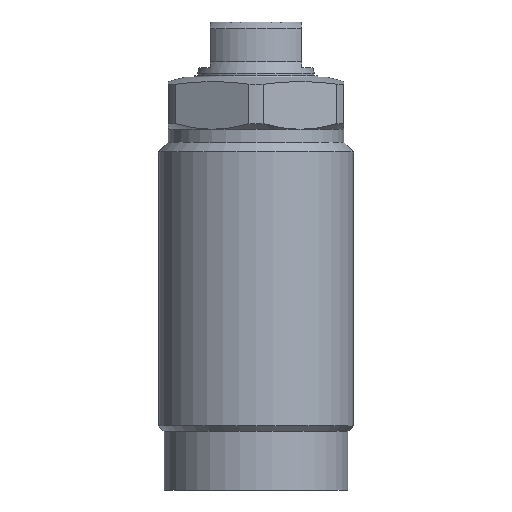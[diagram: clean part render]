
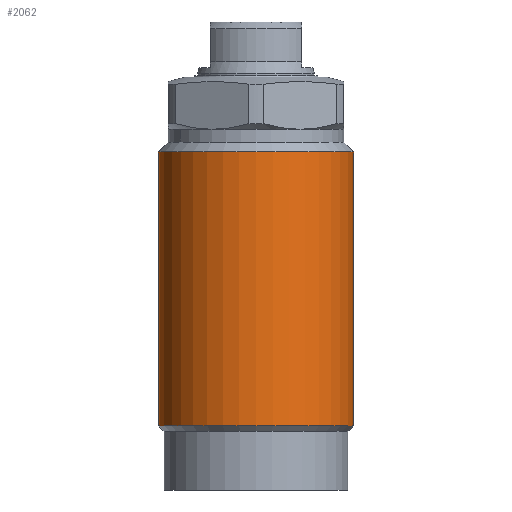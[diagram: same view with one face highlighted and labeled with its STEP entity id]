
A CAD part, front view. The second image highlights one B-rep face of the part: STEP entity #2062.
In plain terms, the highlighted cylindrical face has radius 15 mm (diameter 30 mm), a partial arc.
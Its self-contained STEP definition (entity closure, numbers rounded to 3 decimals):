
#1999=CARTESIAN_POINT('',(-15.0,0.0,-53.65));
#2000=VERTEX_POINT('',#1999);
#2008=CARTESIAN_POINT('',(15.0,0.0,-53.65));
#2009=VERTEX_POINT('',#2008);
#2016=CARTESIAN_POINT('',(0.0,0.0,-53.65));
#2017=DIRECTION('',(0.0,0.0,1.0));
#2018=DIRECTION('',(1.0,0.0,0.0));
#2019=AXIS2_PLACEMENT_3D('',#2016,#2017,#2018);
#2020=CIRCLE('',#2019,15.0);
#2021=EDGE_CURVE('no 2667',#2000,#2009,#2020,.T.);
#2031=CARTESIAN_POINT('',(-15.0,0.0,-11.5));
#2032=VERTEX_POINT('',#2031);
#2033=CARTESIAN_POINT('',(-15.0,0.0,-53.65));
#2034=DIRECTION('',(0.0,-0.0,1.0));
#2035=VECTOR('',#2034,1.0);
#2036=LINE('',#2033,#2035);
#2037=EDGE_CURVE('no 2677',#2000,#2032,#2036,.T.);
#2038=ORIENTED_EDGE('',*,*,#2037,.F.);
#2039=ORIENTED_EDGE('',*,*,#2021,.T.);
#2040=CARTESIAN_POINT('',(15.0,0.0,-11.5));
#2041=VERTEX_POINT('',#2040);
#2042=CARTESIAN_POINT('',(15.0,0.0,-53.65));
#2043=DIRECTION('',(0.0,0.0,1.0));
#2044=VECTOR('',#2043,1.0);
#2045=LINE('',#2042,#2044);
#2046=EDGE_CURVE('no 2685',#2009,#2041,#2045,.T.);
#2047=ORIENTED_EDGE('',*,*,#2046,.T.);
#2048=CARTESIAN_POINT('',(0.0,0.0,-11.5));
#2049=DIRECTION('',(0.0,0.0,1.0));
#2050=DIRECTION('',(1.0,0.0,0.0));
#2051=AXIS2_PLACEMENT_3D('',#2048,#2049,#2050);
#2052=CIRCLE('',#2051,15.0);
#2053=EDGE_CURVE('no 2689',#2032,#2041,#2052,.T.);
#2054=ORIENTED_EDGE('',*,*,#2053,.F.);
#2055=EDGE_LOOP('',(#2038,#2039,#2047,#2054));
#2056=FACE_OUTER_BOUND('',#2055,.T.);
#2057=CARTESIAN_POINT('',(0.0,0.0,3.903));
#2058=DIRECTION('',(0.0,0.0,1.0));
#2059=DIRECTION('',(0.0,1.0,0.0));
#2060=AXIS2_PLACEMENT_3D('',#2057,#2058,#2059);
#2061=CYLINDRICAL_SURFACE('',#2060,15.0);
#2062=ADVANCED_FACE('no 2670',(#2056),#2061,.T.);
